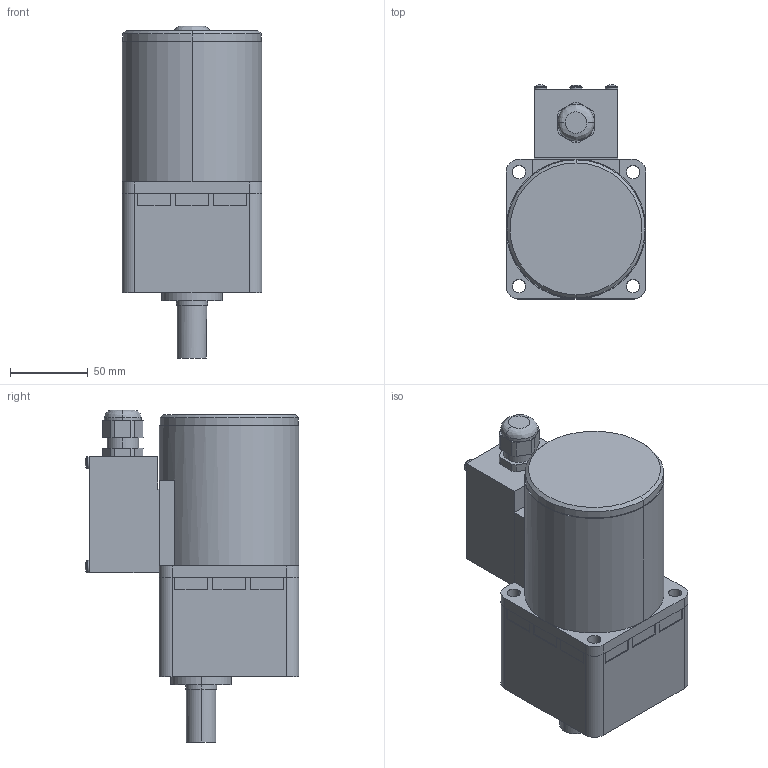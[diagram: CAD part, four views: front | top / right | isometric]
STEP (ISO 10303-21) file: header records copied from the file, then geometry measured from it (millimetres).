
FILE_DESCRIPTION (( 'STEP AP203' ), '1' );
FILE_NAME ('A1248C.STEP', '2014-06-04T08:15:02', ( 'om' ), ( 'Hewlett-Packard Company' ), 'SwSTEP 2.0', 'SolidWorks 2011', '' );
FILE_SCHEMA (( 'CONFIG_CONTROL_DESIGN' ));
Length unit declared in the file: millimetre
Products named in the file (1): A1248C
Bounding box: 90 x 137.85 x 214 mm (x, y, z)
Volume: 1391349.3 mm3; surface area: 114112.6 mm2
Topology: 2 solids, 2 shells, 230 faces, 600 edges, 385 vertices
Faces by surface type: plane 111, cylinder 100, bspline 11, cone 8
Entity records: 7282 total; most frequent: CARTESIAN_POINT 1414, DIRECTION 1252, ORIENTED_EDGE 1188, EDGE_CURVE 594, AXIS2_PLACEMENT_3D 447, VERTEX_POINT 383, LINE 358, VECTOR 358
